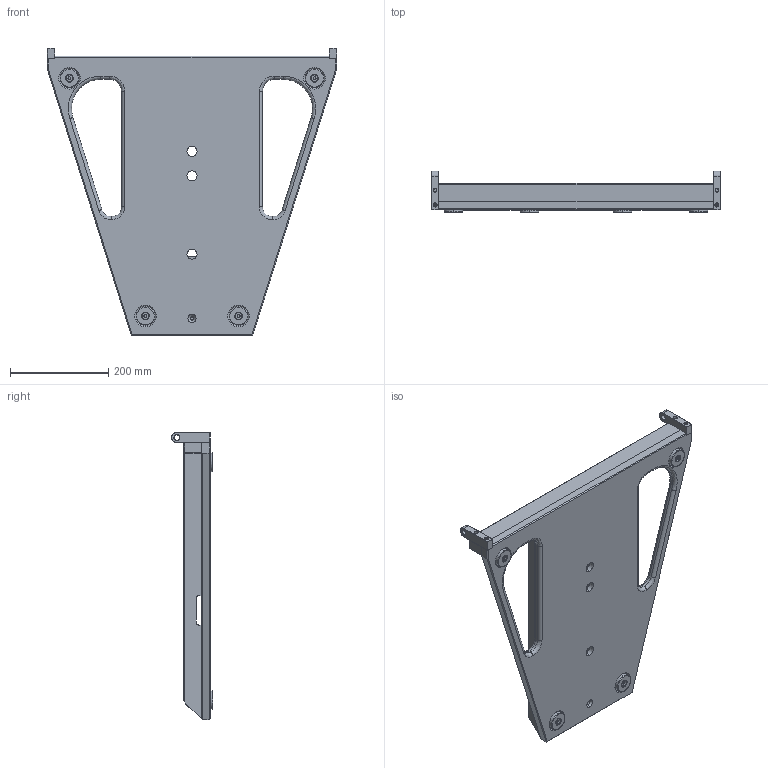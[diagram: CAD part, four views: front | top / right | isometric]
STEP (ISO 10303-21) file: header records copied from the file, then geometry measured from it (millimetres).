
FILE_DESCRIPTION (( 'STEP AP203' ), '1' );
FILE_NAME ('SEEBURG_Galeo_Stackingboard.STEP', '2014-08-20T10:05:58', ( 'Michael Anter' ), ( 'SEEBURG acoustic line GmbH' ), 'SwSTEP 2.0', 'SolidWorks 2009', '' );
FILE_SCHEMA (( 'CONFIG_CONTROL_DESIGN' ));
Length unit declared in the file: millimetre
Products named in the file (6): SEEBURG_Galeo_Stackingboard; galeo_sub_schrägsteller-2; Galeo_Stackingboard_August2011_Version2-2; gummifuss-2; Hintere_Kranöse-2; Vordere_Kranöse-2
Assembly tree (9 placements, depth 2):
  SEEBURG_Galeo_Stackingboard
    Hintere_Kranöse-2
    gummifuss-2  x4
    galeo_sub_schrägsteller-2
    Vordere_Kranöse-2  x2
    Galeo_Stackingboard_August2011_Version2-2
Bounding box: 590 x 84 x 586 mm (x, y, z)
Volume: 4968575.5 mm3; surface area: 702394.2 mm2
Topology: 10 solids, 10 shells, 378 faces, 889 edges, 542 vertices
Faces by surface type: plane 168, cylinder 136, cone 42, bspline 30, torus 2
Entity records: 10886 total; most frequent: CARTESIAN_POINT 2868, DIRECTION 1561, ORIENTED_EDGE 1474, EDGE_CURVE 737, AXIS2_PLACEMENT_3D 550, LINE 461, VECTOR 461, VERTEX_POINT 452
